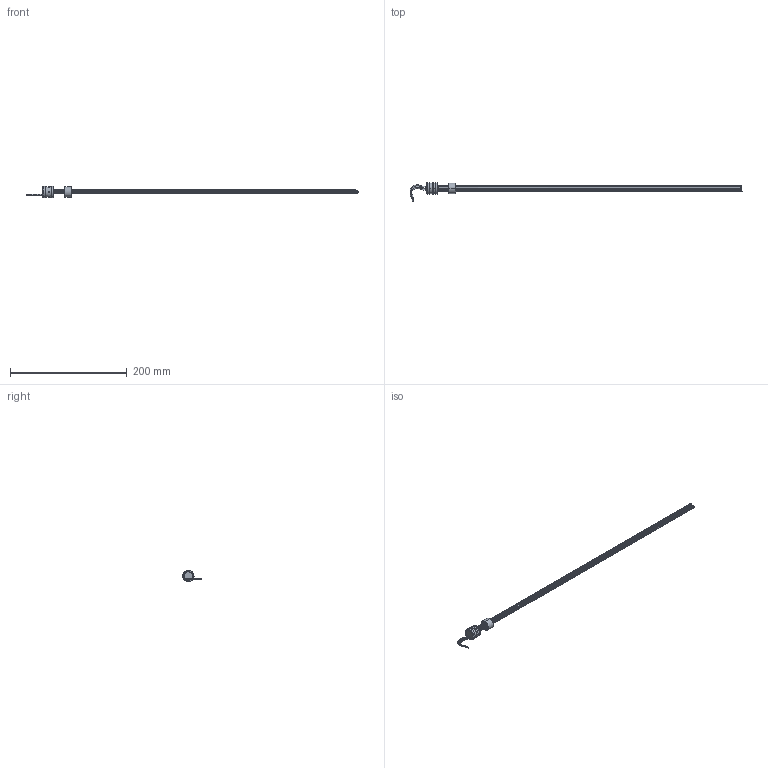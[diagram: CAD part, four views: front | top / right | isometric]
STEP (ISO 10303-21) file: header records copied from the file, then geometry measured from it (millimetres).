
FILE_DESCRIPTION (( 'STEP AP203' ), '1' );
FILE_NAME ('PS6510-regal.step', '2009-04-08T07:07:19', ( 'Gustaf Hederström' ), ( 'Cevican AB' ), 'SwSTEP 2.0', 'SolidWorks 2002308', '' );
FILE_SCHEMA (( 'CONFIG_CONTROL_DESIGN' ));
Length unit declared in the file: millimetre
Products named in the file (5): PS6510-regal; 30-0027_SW0001__6510; 30-0027_SW0001__6510-1; WIPER6500-9
Assembly tree (4 placements, depth 3):
  PS6510-regal
    30-0027_SW0001__6510
      30-0027_SW0001__6510
      30-0027_SW0001__6510-1
    WIPER6500-9
Bounding box: 569.62 x 32.31 x 19.7 mm (x, y, z)
Volume: 29804.7 mm3; surface area: 23114.9 mm2
Topology: 3 solids, 3 shells, 229 faces, 614 edges, 398 vertices
Faces by surface type: cylinder 96, plane 94, bspline 35, cone 4
Entity records: 9607 total; most frequent: CARTESIAN_POINT 3439, ORIENTED_EDGE 1228, DIRECTION 1138, EDGE_CURVE 614, AXIS2_PLACEMENT_3D 424, VERTEX_POINT 398, LINE 290, VECTOR 290
